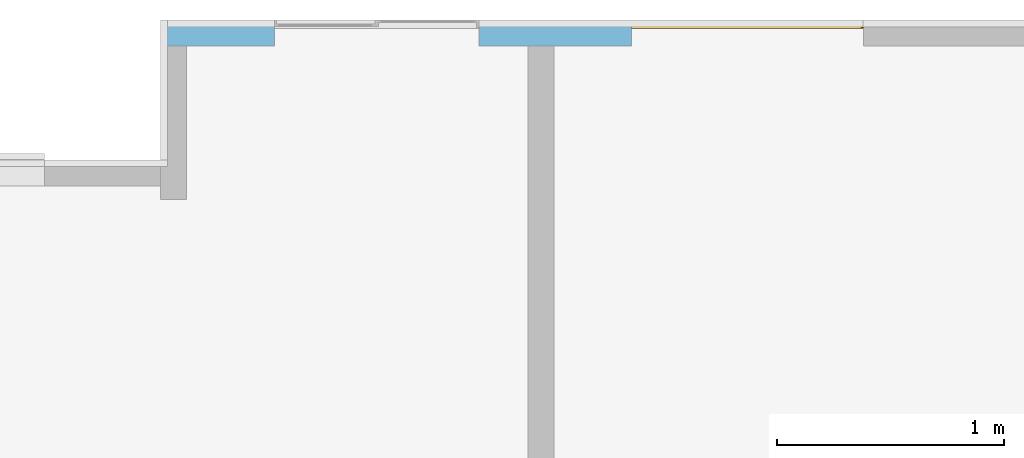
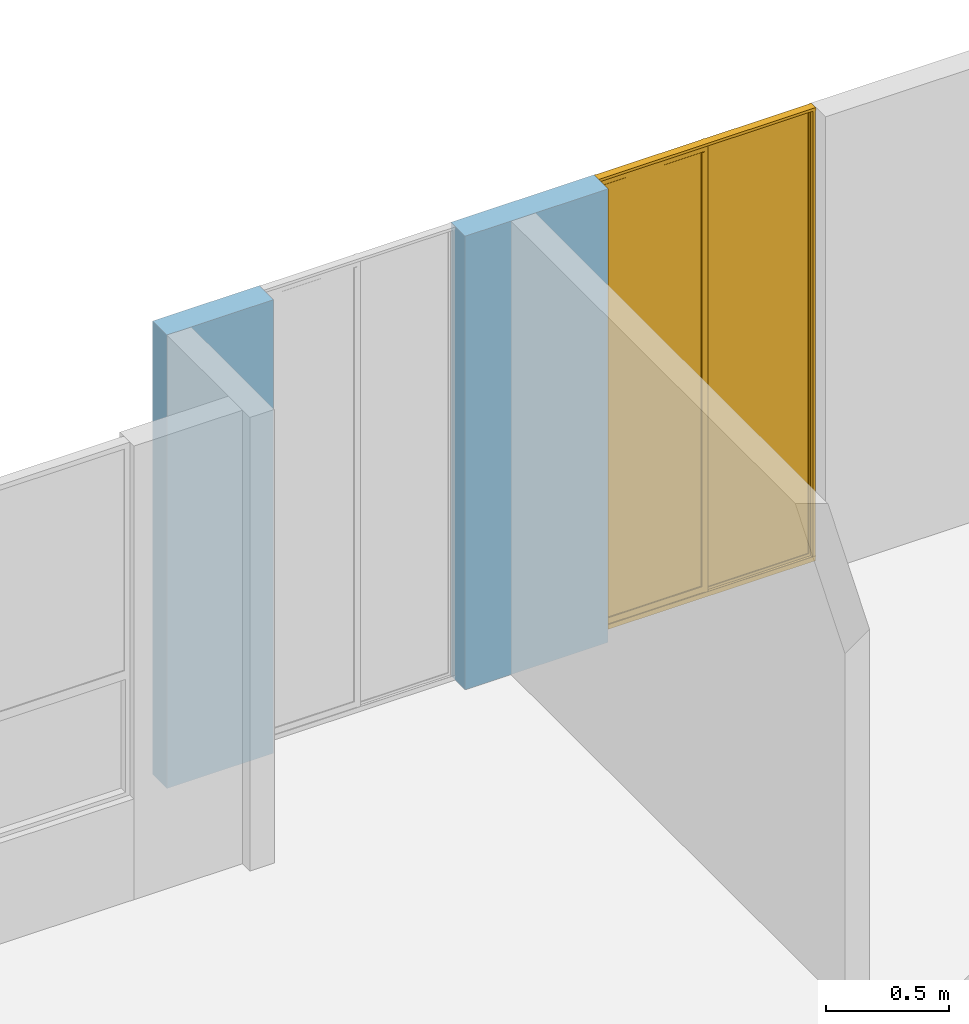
# One storey, part 25 of 48: 1 window, 2 openings, plus 1 element that does not belong to this part.
"""IFC4 building model written with IfcOpenShell, lengths in metres."""

import ifcopenshell
import ifcopenshell.guid

model = None  # the IFC model being written
_history = None  # IfcOwnerHistory: only IFC2X3 demands one
_inside = {}  # id of a spatial element -> (the spatial element, [elements in it])
_under = {}  # id of a project, library or spatial element -> (it, [spatial elements below it])
_declared = {}  # id of a project -> (the project, [libraries it declares])
_typed = {}  # id of a type object -> (the type object, [elements of that type])
_made_of = {}  # id of a material, layer set ... -> (it, [elements and type objects made of it])


def new_model(schema):
    """Start an empty IFC model of exactly this schema.

    Asked for "IFC4X3", IfcOpenShell would pick the latest addendum, in which some entities
    have other attributes; the version numbers below select the first issue.
    IFC2X3 requires an IfcOwnerHistory on every rooted entity: one is made here for all.
    """
    global model, _history
    if schema == "IFC4X3":
        model = ifcopenshell.file(schema_version=(4, 3, 0, 0))
    else:
        model = ifcopenshell.file(schema=schema)
    _inside.clear()
    _under.clear()
    _declared.clear()
    _typed.clear()
    _made_of.clear()
    _history = None
    if model.schema == "IFC2X3":
        org = make("IfcOrganization", Name="unknown")
        user = make(
            "IfcPersonAndOrganization",
            ThePerson=make("IfcPerson", FamilyName="unknown"),
            TheOrganization=org,
        )
        app = make(
            "IfcApplication",
            ApplicationDeveloper=org,
            Version="unknown",
            ApplicationFullName="unknown",
            ApplicationIdentifier="unknown",
        )
        _history = make(
            "IfcOwnerHistory",
            OwningUser=user,
            OwningApplication=app,
            ChangeAction="ADDED",
            CreationDate=0,
        )
    return model


def make(cls, **values):
    """One entity of the class cls with the attributes given. An attribute that is None is left unset."""
    return model.create_entity(
        cls, **{name: value for name, value in values.items() if value is not None}
    )


def entity(cls, *values):
    """Any entity or typed value of the class cls, its attributes in the order of the schema. None: left unset."""
    e = model.create_entity(cls)
    for i, value in enumerate(values):
        if value is not None:
            e[i] = value
    return e


def rooted(cls, **values):
    """An entity with a GlobalId (a new one), such as an element, a storey or a relation."""
    return make(cls, GlobalId=ifcopenshell.guid.new(), OwnerHistory=_history, **values)


def si_unit(unit_type, name, prefix=None):
    """IfcSIUnit, for example si_unit("LENGTHUNIT", "METRE", prefix="MILLI")."""
    return make("IfcSIUnit", UnitType=unit_type, Prefix=prefix, Name=name)


def converted_unit(unit_type, name, factor, base, dimensions=None, offset=None):
    """IfcConversionBasedUnit, such as the inch: factor (a typed value) times the base unit."""
    return make(
        "IfcConversionBasedUnit"
        if offset is None
        else "IfcConversionBasedUnitWithOffset",
        ConversionOffset=offset,
        Dimensions=None
        if dimensions is None
        else entity("IfcDimensionalExponents", *dimensions),
        UnitType=unit_type,
        Name=name,
        ConversionFactor=make(
            "IfcMeasureWithUnit", ValueComponent=factor, UnitComponent=base
        ),
    )


def derived_unit(unit_type, elements):
    """IfcDerivedUnit: a product of units, each with its exponent."""
    return make(
        "IfcDerivedUnit",
        Elements=[
            make("IfcDerivedUnitElement", Unit=unit, Exponent=power)
            for unit, power in elements
        ],
        UnitType=unit_type,
    )


def assignment(units):
    """IfcUnitAssignment: the units of a project."""
    return None if units is None else make("IfcUnitAssignment", Units=units)


def point(xyz):
    """IfcCartesianPoint."""
    return None if xyz is None else make("IfcCartesianPoint", Coordinates=xyz)


def direction(xyz):
    """IfcDirection."""
    return None if xyz is None else make("IfcDirection", DirectionRatios=xyz)


def frame(location, z_axis=None, x_axis=None):
    """IfcAxis2Placement3D, a coordinate frame: its origin and axes. An axis left out is left unset."""
    return make(
        "IfcAxis2Placement3D",
        Location=point(location),
        Axis=direction(z_axis),
        RefDirection=direction(x_axis),
    )


def origin():
    """The frame at (0, 0, 0) with its axes left unset."""
    return frame((0.0, 0.0, 0.0))


def place(relative_to, where):
    """IfcLocalPlacement: puts the frame where relative to a parent placement (None: the world)."""
    return make(
        "IfcLocalPlacement", PlacementRelTo=relative_to, RelativePlacement=where
    )


def context(
    kind, dimensions, precision=None, world=None, true_north=None, identifier=None
):
    """IfcGeometricRepresentationContext, for example the 3D "Model" context."""
    return make(
        "IfcGeometricRepresentationContext",
        ContextIdentifier=identifier,
        ContextType=kind,
        CoordinateSpaceDimension=dimensions,
        Precision=precision,
        WorldCoordinateSystem=world,
        TrueNorth=true_north,
    )


def subcontext(parent, identifier, kind, view, scale=None):
    """IfcGeometricRepresentationSubContext, for example "Body" below "Model"."""
    return make(
        "IfcGeometricRepresentationSubContext",
        ContextIdentifier=identifier,
        ContextType=kind,
        ParentContext=parent,
        TargetScale=scale,
        TargetView=view,
    )


def project(units=None, contexts=None):
    """IfcProject with its units and contexts."""
    return rooted(
        "IfcProject",
        Name="project",
        RepresentationContexts=contexts,
        UnitsInContext=assignment(units),
    )


def spatial(cls, under=None, at=None, **own):
    """A site, building, storey or space (cls), placed at a placement, below another one or the project."""
    s = rooted(cls, ObjectPlacement=at, **own)
    if under is not None:
        _under.setdefault(under.id(), (under, []))[1].append(s)
    return s


def point_list(points):
    """IfcCartesianPointList2D or 3D."""
    cls = (
        "IfcCartesianPointList2D" if len(points[0]) == 2 else "IfcCartesianPointList3D"
    )
    return make(cls, CoordList=points)


def indexed_curve(points, segments=None, self_intersect=None):
    """IfcIndexedPolyCurve: lines and arcs through numbered points (the first is 1)."""
    return make(
        "IfcIndexedPolyCurve",
        Points=point_list(points),
        Segments=segments,
        SelfIntersect=self_intersect,
    )


def outline(outer, holes=None, kind="AREA"):
    """IfcArbitraryClosedProfileDef: a profile drawn as a closed curve; with holes, ...WithVoids."""
    if holes is None:
        return make("IfcArbitraryClosedProfileDef", ProfileType=kind, OuterCurve=outer)
    return make(
        "IfcArbitraryProfileDefWithVoids",
        ProfileType=kind,
        OuterCurve=outer,
        InnerCurves=holes,
    )


def extrude(swept, where, along, depth):
    """IfcExtrudedAreaSolid: the profile swept, set in the frame where, extruded along a direction by depth."""
    return make(
        "IfcExtrudedAreaSolid",
        SweptArea=swept,
        Position=where,
        ExtrudedDirection=direction(along),
        Depth=depth,
    )


def polygons(points, faces, closed=None, point_numbers=None):
    """IfcPolygonalFaceSet: a face is its outer loop, then its inner loops; points numbered from 1."""
    made = []
    for loops in faces:
        if len(loops) == 1:
            made.append(make("IfcIndexedPolygonalFace", CoordIndex=loops[0]))
        else:
            made.append(
                make(
                    "IfcIndexedPolygonalFaceWithVoids",
                    CoordIndex=loops[0],
                    InnerCoordIndices=loops[1:],
                )
            )
    return make(
        "IfcPolygonalFaceSet",
        Coordinates=point_list(points),
        Closed=closed,
        Faces=made,
        PnIndex=point_numbers,
    )


def shape(context_of_items, identifier, shape_type, items):
    """IfcShapeRepresentation: the items that make up one representation, for example the "Body"."""
    return make(
        "IfcShapeRepresentation",
        ContextOfItems=context_of_items,
        RepresentationIdentifier=identifier,
        RepresentationType=shape_type,
        Items=items,
    )


def source(mapping_origin, context_of_items, identifier, shape_type, items):
    """IfcRepresentationMap: a shape defined once, which mapped items show again and again."""
    return make(
        "IfcRepresentationMap",
        MappingOrigin=mapping_origin,
        MappedRepresentation=shape(context_of_items, identifier, shape_type, items),
    )


def transform(
    local_origin,
    x_axis=None,
    y_axis=None,
    z_axis=None,
    scale=None,
    scale2=None,
    scale3=None,
    uniform=True,
):
    """IfcCartesianTransformationOperator3D, or its non-uniform kind. x_axis, y_axis, z_axis: its Axis1, 2, 3."""
    if uniform:
        return make(
            "IfcCartesianTransformationOperator3D",
            Axis1=direction(x_axis),
            Axis2=direction(y_axis),
            LocalOrigin=point(local_origin),
            Scale=scale,
            Axis3=direction(z_axis),
        )
    return make(
        "IfcCartesianTransformationOperator3DnonUniform",
        Axis1=direction(x_axis),
        Axis2=direction(y_axis),
        LocalOrigin=point(local_origin),
        Scale=scale,
        Axis3=direction(z_axis),
        Scale2=scale2,
        Scale3=scale3,
    )


def mapped(mapping_source, mapping_target):
    """IfcMappedItem: shows the shape of a source again, moved by a transform."""
    return make(
        "IfcMappedItem", MappingSource=mapping_source, MappingTarget=mapping_target
    )


def material(Name=None, Category=None):
    """IfcMaterial."""
    return make("IfcMaterial", Name=Name, Category=Category)


def constituent(of_material, Name=None, Category=None, fraction=None):
    """IfcMaterialConstituent: one of the materials an element consists of."""
    return make(
        "IfcMaterialConstituent",
        Name=Name,
        Material=of_material,
        Fraction=fraction,
        Category=Category,
    )


def constituent_set(constituents=None, Name=None):
    """IfcMaterialConstituentSet."""
    return make(
        "IfcMaterialConstituentSet", Name=Name, MaterialConstituents=constituents
    )


def made_of(thing, what):
    """Note that an element or type object is made of a material, layer set ...; save() writes the relation."""
    if what is not None:
        _made_of.setdefault(what.id(), (what, []))[1].append(thing)
    return thing


def type_object(cls, material=None, **own):
    """A type object (cls), such as IfcWallType, which elements share."""
    return made_of(rooted(cls, **own), material)


def type_shapes(of_type, sources):
    """Give a type object the sources (RepresentationMaps) that its elements show as mapped items."""
    of_type.RepresentationMaps = sources


def element(
    cls,
    number,
    at=None,
    inside=None,
    cuts=None,
    type_object=None,
    material=None,
    context=None,
    identifier="Body",
    shape_type=None,
    held_by="IfcProductDefinitionShape",
    body=None,
    shapes=None,
    **own,
):
    """One element of the class cls, such as IfcWall. Its Tag is "e" and its number.

    at: its placement. inside: the storey or other place that contains it. cuts: it is an
    opening in that element (IfcRelVoidsElement). A single representation is given by context,
    identifier, shape_type and body (its items); several are given by shapes. held_by: the class
    of the entity that holds the representations. save() writes the other relations.
    """
    e = rooted(cls, Tag="e%d" % number, ObjectPlacement=at, **own)
    if body is not None:
        shapes = [shape(context, identifier, shape_type, body)]
    if shapes is not None:
        e.Representation = make(held_by, Representations=shapes)
    if inside is not None:
        _inside.setdefault(inside.id(), (inside, []))[1].append(e)
    if cuts is not None:
        rooted(
            "IfcRelVoidsElement", RelatingBuildingElement=cuts, RelatedOpeningElement=e
        )
    if type_object is not None:
        _typed.setdefault(type_object.id(), (type_object, []))[1].append(e)
    return made_of(e, material)


def fill(opening, filler):
    """IfcRelFillsElement: the door or window that sits in an opening."""
    return rooted(
        "IfcRelFillsElement",
        RelatingOpeningElement=opening,
        RelatedBuildingElement=filler,
    )


def aggregate(whole, parts):
    """IfcRelAggregates: a whole, such as a stair, and the parts it consists of."""
    return rooted("IfcRelAggregates", RelatingObject=whole, RelatedObjects=parts)


def save(model, path):
    """Write the relations noted so far, then the file.

    IfcRelAggregates (storeys below a building ...), IfcRelContainedInSpatialStructure (elements
    in a storey), IfcRelDefinesByType, IfcRelAssociatesMaterial and IfcRelDeclares: one each for
    every whole, place, type object, material and project.
    """
    for whole, parts in _under.values():
        aggregate(whole, parts)
    for where, things in _inside.values():
        rooted(
            "IfcRelContainedInSpatialStructure",
            RelatedElements=things,
            RelatingStructure=where,
        )
    for kind, things in _typed.values():
        rooted("IfcRelDefinesByType", RelatedObjects=things, RelatingType=kind)
    for what, things in _made_of.values():
        rooted("IfcRelAssociatesMaterial", RelatedObjects=things, RelatingMaterial=what)
    for by, libraries in _declared.values():
        rooted("IfcRelDeclares", RelatingContext=by, RelatedDefinitions=libraries)
    model.write(path)


model = new_model("IFC4")

# Units and contexts
model_context = context("Model", 3, precision=1e-05, world=origin(), true_north=direction((6.123031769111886e-17, 1.0)))
body_context = subcontext(model_context, "Body", "Model", "MODEL_VIEW")
ifc_project = project(units=[si_unit("LENGTHUNIT", "METRE"), si_unit("AREAUNIT", "SQUARE_METRE"), si_unit("VOLUMEUNIT", "CUBIC_METRE"), converted_unit("PLANEANGLEUNIT", "DEGREE", entity("IfcRatioMeasure", 0.017453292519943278), si_unit("PLANEANGLEUNIT", "RADIAN"), dimensions=[0, 0, 0, 0, 0, 0, 0]), si_unit("MASSUNIT", "GRAM", prefix="KILO"), derived_unit("MASSDENSITYUNIT", [(si_unit("MASSUNIT", "GRAM", prefix="KILO"), 1), (si_unit("LENGTHUNIT", "METRE"), -3)]), derived_unit("IONCONCENTRATIONUNIT", [(si_unit("MASSUNIT", "GRAM", prefix="KILO"), 1), (si_unit("LENGTHUNIT", "METRE"), -3)]), derived_unit("MOMENTOFINERTIAUNIT", [(si_unit("LENGTHUNIT", "METRE"), 4)]), si_unit("TIMEUNIT", "SECOND"), si_unit("FREQUENCYUNIT", "HERTZ"), si_unit("THERMODYNAMICTEMPERATUREUNIT", "DEGREE_CELSIUS"), derived_unit("THERMALTRANSMITTANCEUNIT", [(si_unit("MASSUNIT", "GRAM", prefix="KILO"), 1), (si_unit("THERMODYNAMICTEMPERATUREUNIT", "KELVIN"), -1), (si_unit("TIMEUNIT", "SECOND"), -3)]), derived_unit("THERMALCONDUCTANCEUNIT", [(si_unit("MASSUNIT", "GRAM", prefix="KILO"), 1), (si_unit("THERMODYNAMICTEMPERATUREUNIT", "KELVIN"), -1), (si_unit("TIMEUNIT", "SECOND"), -3), (si_unit("LENGTHUNIT", "METRE"), 1)]), derived_unit("VOLUMETRICFLOWRATEUNIT", [(si_unit("LENGTHUNIT", "METRE"), 3), (si_unit("TIMEUNIT", "SECOND"), -1)]), derived_unit("MASSFLOWRATEUNIT", [(si_unit("MASSUNIT", "GRAM", prefix="KILO"), 1), (si_unit("TIMEUNIT", "SECOND"), -1)]), derived_unit("ROTATIONALFREQUENCYUNIT", [(si_unit("TIMEUNIT", "SECOND"), -1)]), si_unit("ELECTRICCURRENTUNIT", "AMPERE"), si_unit("ELECTRICVOLTAGEUNIT", "VOLT"), si_unit("POWERUNIT", "WATT"), si_unit("FORCEUNIT", "NEWTON", prefix="KILO"), si_unit("ILLUMINANCEUNIT", "LUX"), si_unit("LUMINOUSFLUXUNIT", "LUMEN"), si_unit("LUMINOUSINTENSITYUNIT", "CANDELA"), derived_unit("USERDEFINED", [(si_unit("MASSUNIT", "GRAM", prefix="KILO"), -1), (si_unit("LENGTHUNIT", "METRE"), -2), (si_unit("TIMEUNIT", "SECOND"), 3), (si_unit("LUMINOUSFLUXUNIT", "LUMEN"), 1)]), derived_unit("USERDEFINED", [(si_unit("MASSUNIT", "GRAM", prefix="KILO"), 1), (si_unit("TIMEUNIT", "SECOND"), -3), (si_unit("LENGTHUNIT", "METRE"), 3), (si_unit("ELECTRICCURRENTUNIT", "AMPERE"), -2)]), derived_unit("SOUNDPOWERUNIT", [(si_unit("MASSUNIT", "GRAM", prefix="KILO"), 1), (si_unit("TIMEUNIT", "SECOND"), -3), (si_unit("LENGTHUNIT", "METRE"), 2)]), derived_unit("SOUNDPRESSUREUNIT", [(si_unit("MASSUNIT", "GRAM", prefix="KILO"), 1), (si_unit("LENGTHUNIT", "METRE"), -1), (si_unit("TIMEUNIT", "SECOND"), -2)]), derived_unit("LINEARVELOCITYUNIT", [(si_unit("LENGTHUNIT", "METRE"), 1), (si_unit("TIMEUNIT", "SECOND"), -1)]), si_unit("PRESSUREUNIT", "PASCAL"), derived_unit("USERDEFINED", [(si_unit("MASSUNIT", "GRAM", prefix="KILO"), 1), (si_unit("LENGTHUNIT", "METRE"), -2), (si_unit("TIMEUNIT", "SECOND"), -2)]), derived_unit("LINEARFORCEUNIT", [(si_unit("MASSUNIT", "GRAM", prefix="KILO"), 1), (si_unit("TIMEUNIT", "SECOND"), -2)]), derived_unit("PLANARFORCEUNIT", [(si_unit("MASSUNIT", "GRAM", prefix="KILO"), 1), (si_unit("LENGTHUNIT", "METRE"), -1), (si_unit("TIMEUNIT", "SECOND"), -2)]), derived_unit("SPECIFICHEATCAPACITYUNIT", [(si_unit("THERMODYNAMICTEMPERATUREUNIT", "KELVIN"), -1), (si_unit("LENGTHUNIT", "METRE"), 2), (si_unit("TIMEUNIT", "SECOND"), -2)]), derived_unit("HEATINGVALUEUNIT", [(si_unit("LENGTHUNIT", "METRE"), 2), (si_unit("TIMEUNIT", "SECOND"), -2)]), derived_unit("VAPORPERMEABILITYUNIT", [(si_unit("LENGTHUNIT", "METRE"), -1), (si_unit("TIMEUNIT", "SECOND"), 1)]), derived_unit("DYNAMICVISCOSITYUNIT", [(si_unit("MASSUNIT", "GRAM", prefix="KILO"), 1), (si_unit("TIMEUNIT", "SECOND"), -1), (si_unit("LENGTHUNIT", "METRE"), -1)]), derived_unit("THERMALEXPANSIONCOEFFICIENTUNIT", [(si_unit("THERMODYNAMICTEMPERATUREUNIT", "KELVIN"), -1)]), derived_unit("MODULUSOFELASTICITYUNIT", [(si_unit("MASSUNIT", "GRAM", prefix="KILO"), 1), (si_unit("LENGTHUNIT", "METRE"), -1), (si_unit("TIMEUNIT", "SECOND"), -2)]), derived_unit("ISOTHERMALMOISTURECAPACITYUNIT", [(si_unit("LENGTHUNIT", "METRE"), 3), (si_unit("MASSUNIT", "GRAM", prefix="KILO"), -1)]), derived_unit("MOISTUREDIFFUSIVITYUNIT", [(si_unit("TIMEUNIT", "SECOND"), -1), (si_unit("LENGTHUNIT", "METRE"), 2)])], contexts=[model_context])

# Site, building, storey
site_placement = place(None, origin())
site = spatial("IfcSite", under=ifc_project, at=site_placement, Name="Default", CompositionType="ELEMENT")
building_placement = place(site_placement, origin())
building = spatial("IfcBuilding", under=site, at=building_placement, CompositionType="ELEMENT")
storey_placement = place(building_placement, frame((0.0, 0.0, 4.700000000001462)))
storey = spatial("IfcBuildingStorey", under=building, at=storey_placement, Name="Nivel 3", CompositionType="ELEMENT", Elevation=4.700000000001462)

# Wall, openings, window
ifc_material_1 = material(Name="Ladrillo claro (Aire)", Category="Materials")
wall_type = type_object("IfcWallType", Name="Basic Wall:B2010 - 0.115m - Muro exterior en mampostería - Ladrillo", PredefinedType="STANDARD")
wall_placement = place(storey_placement, frame((12.462500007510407, -0.03750002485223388, 0.0)))
wall = element("IfcWall", 1, at=wall_placement, inside=storey, type_object=wall_type, material=ifc_material_1, Name="Basic Wall:B2010 - 0.115m - Muro exterior en mampostería - Ladrillo", ObjectType="Basic Wall:B2010 - 0.115m - Muro exterior en mampostería - Ladrillo", PredefinedType="NOTDEFINED", context=body_context, shape_type="Tessellation", body=[
    polygons([(5.381729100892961e-16, -0.0575, 2.2500000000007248), (5.381729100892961e-16, -0.0575, 5.414335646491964e-16), (0.1150000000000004, -0.05749999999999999, 5.414335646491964e-16), (0.5000000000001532, -0.05749999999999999, 5.414335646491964e-16), (0.5000000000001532, -0.05749999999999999, 2.2500000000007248), (0.1150000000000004, -0.05749999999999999, 2.2500000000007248), (-1.1329938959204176e-16, 0.0575, 5.414335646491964e-16), (0.5000000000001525, 0.05749999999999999, 5.414335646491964e-16), (-1.1329938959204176e-16, 0.0575, 2.2500000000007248), (0.5000000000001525, 0.05749999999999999, 2.2500000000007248)], [[[1, 2, 3, 4, 5, 6]], [[2, 7, 8, 4, 3]], [[2, 1, 9, 7]], [[5, 4, 8, 10]], [[9, 1, 6, 5, 10]], [[7, 9, 10, 8]]], closed=True),
    polygons([(1.4000000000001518, 0.0575, 5.414335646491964e-16), (1.4000000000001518, 0.0575, 2.2500000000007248), (2.0707999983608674, 0.05750000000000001, 2.2500000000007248), (2.0707999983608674, 0.0575, 5.414335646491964e-16), (1.4000000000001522, -0.05749999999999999, 2.2500000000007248), (1.6149999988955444, -0.05749999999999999, 2.2500000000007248), (1.7299999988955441, -0.05749999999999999, 2.2500000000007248), (2.0707999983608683, -0.05749999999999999, 2.2500000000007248), (2.0707999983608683, -0.05749999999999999, 5.414335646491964e-16), (1.4000000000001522, -0.05749999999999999, 5.414335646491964e-16), (1.7299999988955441, -0.05749999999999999, 5.414335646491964e-16), (1.6149999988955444, -0.05749999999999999, 5.414335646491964e-16)], [[[1, 2, 3, 4]], [[2, 5, 6, 7, 8, 3]], [[8, 9, 4, 3]], [[10, 5, 2, 1]], [[10, 1, 4, 9, 11, 12]], [[5, 10, 12, 11, 9, 8, 7, 6]]], closed=True),
])
opening_1_placement = place(wall_placement, frame((1.4000000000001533, 0.05749999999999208, 0.0)))
element("IfcOpeningElement", 2, at=opening_1_placement, cuts=wall, Name="B2020 - Ventana corrediza 2C - Aluminio + Vidrio:B2020 - 0.90m x 2.25m - Ventana corrediza 2C - Aluminio + Vidrio:1", PredefinedType="OPENING", context=body_context, shape_type="SweptSolid", body=[
    extrude(outline(indexed_curve([(0.0, 1.3535839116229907e-16), (2.249999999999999, 1.3535839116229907e-16), (2.249999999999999, 0.9), (0.0, 0.9), (0.0, 1.3535839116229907e-16)], self_intersect=False)), frame((0.0, 0.0, 0.0), z_axis=(0.0, -1.0, 0.0), x_axis=(0.0, 0.0, 1.0)), (0.0, 0.0, 1.0), 0.115),
])
opening_2_placement = place(wall_placement, frame((3.0907999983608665, 0.057499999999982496, 0.0)))
opening_2 = element("IfcOpeningElement", 3, at=opening_2_placement, cuts=wall, Name="B2020 - Ventana corrediza 2C - Aluminio + Vidrio:B2020 - 1.02m x 2.25m - Ventana corrediza 2C - Aluminio + Vidrio:1", PredefinedType="OPENING", context=body_context, shape_type="SweptSolid", body=[
    extrude(outline(indexed_curve([(0.0, -9.331723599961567e-34), (2.249999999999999, -9.331723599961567e-34), (2.249999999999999, 1.0199999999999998), (0.0, 1.0199999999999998), (0.0, -9.331723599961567e-34)], self_intersect=False)), frame((0.0, 0.0, 0.0), z_axis=(0.0, -1.0, 0.0), x_axis=(0.0, 0.0, 1.0)), (0.0, 0.0, 1.0), 0.115),
])
ifc_material_2 = material(Name="Vidrio", Category="Materials")
ifc_constituent_1 = constituent(ifc_material_2, Name="Vidrio", Category="Materials")
ifc_material_3 = material(Name="<Unnamed>")
ifc_constituent_2 = constituent(ifc_material_3, Name="<Unnamed>")
ifc_constituent_set_1 = constituent_set(constituents=[ifc_constituent_1, ifc_constituent_2])
ifc_constituent_3 = constituent(ifc_material_2, Name="Vidrio", Category="Materials")
ifc_constituent_4 = constituent(ifc_material_3, Name="<Unnamed>")
ifc_constituent_set_2 = constituent_set(constituents=[ifc_constituent_3, ifc_constituent_4])
window_type = type_object("IfcWindowType", Name="B2020 - Ventana corrediza 2C - Aluminio + Vidrio:B2020 - 1.02m x 2.25m - Ventana corrediza 2C - Aluminio + Vidrio", PartitioningType="NOTDEFINED", PredefinedType="WINDOW", material=ifc_constituent_set_2)
shared_shape = source(origin(), body_context, "Body", "Tessellation", [
    polygons([(0.5301871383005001, 0.11311505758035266, 0.028641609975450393), (1.0000323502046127, 0.11311505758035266, 0.028641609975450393), (1.0000323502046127, 0.10801372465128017, 0.028641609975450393), (0.5301871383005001, 0.10801372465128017, 0.028641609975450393), (0.5301871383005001, 0.11311505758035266, 2.2347073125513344), (0.5301871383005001, 0.10801372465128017, 2.2347073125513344), (1.0000323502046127, 0.10801372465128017, 2.2347073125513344), (1.0000323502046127, 0.11311505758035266, 2.2347073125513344)], [[[1, 2, 3, 4]], [[5, 1, 4, 6]], [[6, 4, 3, 7]], [[7, 3, 2, 8]], [[8, 2, 1, 5]], [[5, 6, 7, 8]]], closed=True),
    polygons([(0.018846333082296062, 0.0962952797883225, 0.054189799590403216), (0.48827105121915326, 0.0962952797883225, 0.054189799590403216), (0.48827105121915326, 0.0919992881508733, 0.054189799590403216), (0.018846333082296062, 0.0919992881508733, 0.054189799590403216), (0.018846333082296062, 0.0962952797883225, 2.2043993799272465), (0.018846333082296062, 0.0919992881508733, 2.2043993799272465), (0.48827105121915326, 0.0919992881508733, 2.2043993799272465), (0.48827105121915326, 0.0962952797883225, 2.2043993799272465)], [[[1, 2, 3, 4]], [[5, 1, 4, 6]], [[6, 4, 3, 7]], [[7, 3, 2, 8]], [[8, 2, 1, 5]], [[5, 6, 7, 8]]], closed=True),
    polygons([(1.6039969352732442e-14, 0.08248628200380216, 0.020380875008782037), (1.6039969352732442e-14, 0.07981389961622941, 0.020380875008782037), (1.6039969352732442e-14, 0.07981389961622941, 0.025674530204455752), (1.6039969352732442e-14, 0.08106389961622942, 0.025674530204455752), (1.6039969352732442e-14, 0.08106389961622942, 0.02163087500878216), (1.6039969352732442e-14, 0.08373628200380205, 0.02163087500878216), (1.6039969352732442e-14, 0.08373628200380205, 0.017447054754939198), (1.6039969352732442e-14, 0.08932238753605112, 0.017447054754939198), (1.6039969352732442e-14, 0.08932238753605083, 2.24863686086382), (1.6039969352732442e-14, 0.0810593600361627, 2.24863686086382), (1.6039969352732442e-14, 0.0810593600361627, 2.2365872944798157), (1.6039969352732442e-14, 0.07969622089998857, 2.2365872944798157), (1.5972290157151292e-14, 0.07969622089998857, 2.2499999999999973), (1.6039969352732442e-14, 0.11748628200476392, 2.2499999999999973), (1.6039969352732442e-14, 0.11748628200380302, -2.5718094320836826e-15), (1.6039969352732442e-14, 0.08248628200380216, -2.5718094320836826e-15), (1.0200000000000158, 0.08248628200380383, 0.020380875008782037), (1.0200000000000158, 0.08248628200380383, -2.5718094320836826e-15), (1.0200000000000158, 0.11748628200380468, -2.5718094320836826e-15), (0.5166454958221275, 0.11748628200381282, 2.2499999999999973), (0.5166454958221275, 0.11748628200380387, 0.006176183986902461), (1.0100000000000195, 0.11748628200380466, 0.006176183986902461), (1.0100000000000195, 0.11748628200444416, 2.2499999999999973), (1.0200000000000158, 0.11748628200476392, 2.2499999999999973), (0.009897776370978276, 0.11748628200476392, 2.2499999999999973), (0.009897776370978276, 0.11748628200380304, 0.006176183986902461), (0.5033545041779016, 0.11748628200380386, 0.006176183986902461), (0.5033545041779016, 0.11748628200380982, 2.2499999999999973), (0.016298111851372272, 0.08932238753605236, 2.2069861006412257), (0.5033545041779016, 0.08932238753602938, 2.2069861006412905), (0.5033545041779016, 0.08932238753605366, 2.2043993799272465), (0.490819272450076, 0.08932238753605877, 2.2043993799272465), (0.4908192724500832, 0.08932238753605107, 0.0519155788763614), (0.01629811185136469, 0.0893223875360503, 0.0519155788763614), (0.01629811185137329, 0.08932238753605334, 2.237270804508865), (0.01629811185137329, 0.08932238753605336, 2.24863686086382), (0.003762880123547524, 0.08932238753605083, 0.017447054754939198), (0.003762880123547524, 0.08932238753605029, 0.02163087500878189), (0.5033545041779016, 0.08932238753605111, 0.021630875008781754), (0.5033545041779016, 0.08932238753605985, 0.017447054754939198), (0.5180471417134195, 0.08932238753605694, 0.017447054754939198), (0.5180471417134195, 0.08932238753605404, 2.24863686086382), (0.5033545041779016, 0.08932238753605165, 2.24863686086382), (0.5033545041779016, 0.0893223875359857, 2.237270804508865), (1.0200000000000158, 0.0837362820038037, 0.017447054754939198), (1.0200000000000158, 0.08548628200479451, 0.017447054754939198), (1.0100000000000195, 0.08548628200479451, 0.017447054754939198), (1.0100000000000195, 0.09284764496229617, 0.017447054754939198), (0.5180471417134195, 0.09284764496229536, 0.017447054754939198), (0.5033545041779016, 0.09284764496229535, 0.017447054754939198), (0.003762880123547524, 0.09284764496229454, 0.017447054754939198), (1.0200000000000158, 0.0837362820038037, 0.02163087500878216), (1.0200000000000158, 0.08106389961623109, 0.02163087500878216), (1.0200000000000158, 0.08106389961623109, 0.025674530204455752), (1.0200000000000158, 0.07981389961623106, 0.025674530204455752), (1.0200000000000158, 0.07981389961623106, 0.020380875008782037), (0.018842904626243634, 0.09629339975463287, 0.054191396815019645), (0.4882772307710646, 0.09629080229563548, 0.054191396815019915), (0.4908192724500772, 0.09897218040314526, 0.051915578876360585), (0.016298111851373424, 0.0989721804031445, 0.051915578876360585), (0.016298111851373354, 0.09897218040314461, 2.237270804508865), (0.016298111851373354, 0.09897218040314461, 2.24863686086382), (0.01884633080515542, 0.0962732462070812, 2.24863686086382), (0.01884631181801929, 0.0962733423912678, 2.237270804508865), (0.490819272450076, 0.09897218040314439, 2.2043993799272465), (0.5033545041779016, 0.09897218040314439, 2.2043993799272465), (0.5033545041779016, 0.0989721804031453, 0.02163087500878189), (0.009897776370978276, 0.09897218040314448, 0.021630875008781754), (0.009897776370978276, 0.09897218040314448, 2.24863686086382), (0.5033545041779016, 0.0989721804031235, 2.237270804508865), (0.5033545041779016, 0.09897218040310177, 2.2069861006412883), (0.016298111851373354, 0.09897218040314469, 2.206986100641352), (0.48827105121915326, 0.09628607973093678, 2.2043993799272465), (0.018840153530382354, 0.09200376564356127, 0.05419139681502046), (0.488274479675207, 0.0920011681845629, 0.05419139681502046), (0.018846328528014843, 0.09202132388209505, 2.24863686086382), (0.018846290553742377, 0.09202124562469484, 2.237270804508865), (0.48827105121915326, 0.09200839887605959, 2.20439928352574), (0.5180471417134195, 0.09284764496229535, 0.011279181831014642), (0.5180471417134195, 0.0961232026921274, 0.010600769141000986), (0.5180471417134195, 0.09612320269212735, 0.014402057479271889), (0.5180471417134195, 0.10582811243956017, 0.014402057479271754), (0.5180471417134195, 0.1058281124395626, 2.24863686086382), (0.5033545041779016, 0.0919994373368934, 2.2043993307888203), (0.003762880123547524, 0.09897218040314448, 0.021630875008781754), (0.003762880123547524, 0.09284764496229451, 0.011279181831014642), (0.003762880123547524, 0.0989721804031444, 0.010010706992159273), (0.009897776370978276, 0.0989721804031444, 0.010010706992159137), (0.009897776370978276, 0.1153006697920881, 2.2499999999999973), (0.009897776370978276, 0.11530066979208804, 2.2369062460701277), (0.009897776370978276, 0.11310173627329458, 2.2347073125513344), (0.009897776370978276, 0.10802704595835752, 2.2347073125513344), (0.009897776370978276, 0.10582811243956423, 2.2369062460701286), (0.009897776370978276, 0.10582811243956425, 2.24863686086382), (1.0200000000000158, 0.07969622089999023, 2.2499999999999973), (1.0200000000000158, 0.07969622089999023, 2.2365872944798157), (1.0200000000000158, 0.08105936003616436, 2.2365872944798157), (1.0200000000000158, 0.08105936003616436, 2.24863686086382), (1.0200000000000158, 0.08548628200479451, 2.24863686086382), (1.0100000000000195, 0.08548628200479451, 2.24863686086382), (1.0100000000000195, 0.09284764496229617, 0.011279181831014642), (1.0100000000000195, 0.10582811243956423, 2.24863686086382), (1.0100000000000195, 0.10582811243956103, 0.014402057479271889), (1.0100000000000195, 0.09612320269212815, 0.014402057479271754), (1.0100000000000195, 0.09612320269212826, 0.010600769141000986), (0.5166454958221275, 0.11530066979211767, 0.006628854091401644), (0.5166454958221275, 0.11530066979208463, 2.2499999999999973), (1.0100000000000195, 0.11530066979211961, 0.0066288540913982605), (1.0100000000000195, 0.11530066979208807, 2.2499999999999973), (0.5033545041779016, 0.11530066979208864, 2.2499999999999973), (0.5033545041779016, 0.11530066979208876, 2.2369062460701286), (0.5276389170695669, 0.11530066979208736, 0.02682441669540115), (0.5276389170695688, 0.11530066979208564, 2.236906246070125), (0.5301871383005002, 0.1131150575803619, 2.234713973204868), (0.5301871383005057, 0.1131150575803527, 0.028641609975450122), (1.0000323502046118, 0.11311505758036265, 0.028641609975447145), (1.0000323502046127, 0.11311505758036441, 2.2347139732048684), (1.0025805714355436, 0.11530066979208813, 2.236906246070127), (1.002580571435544, 0.1153006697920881, 0.02682441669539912), (1.0000323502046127, 0.10801372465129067, 0.02864160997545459), (0.5301871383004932, 0.10801372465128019, 0.028641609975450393), (0.5276389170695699, 0.10582811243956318, 0.02682441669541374), (1.002580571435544, 0.10582811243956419, 0.026824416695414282), (0.5276389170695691, 0.10582811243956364, 2.2369062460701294), (1.002580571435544, 0.10582811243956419, 2.23690624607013), (1.000031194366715, 0.10801638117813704, 2.2347113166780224), (0.5301882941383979, 0.1080163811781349, 2.234711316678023), (0.5033545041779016, 0.0962951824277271, 2.204399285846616), (0.018846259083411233, 0.09627365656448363, 2.204388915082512), (0.0188444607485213, 0.09201660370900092, 2.2043931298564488), (0.5033545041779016, 0.10582811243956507, 2.24863686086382), (0.5033545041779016, 0.10802704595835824, 2.2347073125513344), (0.5033545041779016, 0.10582811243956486, 2.2369062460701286), (0.5033545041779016, 0.11310173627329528, 2.2347073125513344), (0.5033545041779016, 0.09284764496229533, 0.011279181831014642)], [[[1, 2, 3, 4, 5, 6, 7, 8, 9, 10, 11, 12, 13, 14, 15, 16]], [[17, 1, 16, 18]], [[16, 15, 19, 18]], [[20, 21, 22, 23, 24, 19, 15, 14, 25, 26, 27, 28]], [[35, 36, 9, 8, 37, 38, 39, 40, 41, 42, 43, 44], [29, 30, 31, 32, 33, 34]], [[45, 46, 47, 48, 49, 41, 40, 50, 51, 37, 8, 7]], [[45, 7, 6, 52]], [[52, 6, 5, 53]], [[53, 5, 4, 54]], [[54, 4, 3, 55]], [[55, 3, 2, 56]], [[56, 2, 1, 17]], [[57, 58, 59, 60]], [[61, 62, 63, 64]], [[60, 59, 65, 66, 67, 68, 69, 62, 61, 70, 71, 72]], [[65, 59, 58, 73]], [[74, 75, 58, 57]], [[64, 63, 76, 77]], [[58, 75, 78, 73]], [[34, 33, 75, 74]], [[77, 76, 36, 35]], [[78, 75, 33, 32]], [[49, 79, 80, 81, 82, 83, 42, 41]], [[84, 31, 30]], [[39, 38, 85, 68, 67]], [[85, 38, 37, 51, 86, 87]], [[68, 85, 87, 88]], [[25, 89, 90, 91, 92, 93, 94, 69, 68, 88, 26]], [[17, 18, 19, 24, 95, 96, 97, 98, 99, 46, 45, 52, 53, 54, 55, 56]], [[46, 99, 100, 47]], [[49, 48, 101, 79]], [[47, 100, 102, 103, 104, 105, 101, 48]], [[79, 101, 105, 80]], [[106, 21, 20, 107]], [[23, 22, 108, 109]], [[110, 111, 90, 89]], [[80, 105, 104, 81]], [[112, 113, 114, 115]], [[116, 117, 118, 119]], [[119, 112, 115, 116]], [[120, 121, 122, 123]], [[103, 102, 83, 82], [122, 124, 125, 123]], [[123, 125, 126, 120]], [[121, 127, 124, 122]], [[81, 104, 103, 82]], [[120, 126, 117, 116]], [[116, 115, 121, 120]], [[115, 114, 127, 121]], [[13, 95, 24, 23, 109, 107, 20, 28, 110, 89, 25, 14]], [[72, 71, 128, 73, 129]], [[129, 73, 78, 130]], [[130, 78, 84, 30, 29]], [[77, 35, 44, 70, 61, 64]], [[31, 84, 78, 32]], [[97, 11, 10, 98]], [[96, 12, 11, 97]], [[95, 13, 12, 96]], [[118, 117, 114, 113]], [[127, 114, 117, 126]], [[124, 127, 126, 125]], [[10, 9, 36, 76, 63, 62, 69, 94, 131, 43, 42, 83, 102, 100, 99, 98]], [[132, 133, 93, 92]], [[134, 132, 92, 91]], [[111, 134, 91, 90]], [[73, 128, 66, 65]], [[133, 131, 94, 93]], [[109, 108, 106, 107], [112, 119, 118, 113]], [[106, 108, 22, 21]], [[27, 26, 88, 87, 86, 135]], [[135, 86, 51, 50]], [[27, 135, 50, 40, 39, 67, 66, 128, 71, 70, 44, 43, 131, 133, 132, 134, 111, 110, 28]], [[74, 130, 29, 34]], [[57, 129, 130, 74]], [[60, 72, 129, 57]]], closed=True),
])
type_shapes(window_type, [shared_shape])
window_placement = place(opening_2_placement, frame((-1.0200000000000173, -0.11748628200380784, 0.0)))
window = element("IfcWindow", 4, at=window_placement, inside=storey, type_object=window_type, material=ifc_constituent_set_1, Name="B2020 - Ventana corrediza 2C - Aluminio + Vidrio:B2020 - 1.02m x 2.25m - Ventana corrediza 2C - Aluminio + Vidrio", ObjectType="B2020 - Ventana corrediza 2C - Aluminio + Vidrio:B2020 - 1.02m x 2.25m - Ventana corrediza 2C - Aluminio + Vidrio", OverallHeight=2.249999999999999, OverallWidth=1.0199999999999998, PartitioningType="NOTDEFINED", PredefinedType="WINDOW", context=body_context, shape_type="MappedRepresentation", body=[
    mapped(shared_shape, transform((0.0, 0.0, 0.0), scale=1.0)),
])
fill(opening_2, window)

save(model, "model.ifc")
